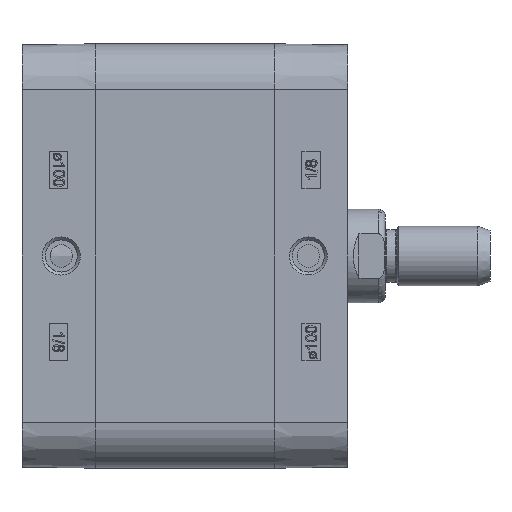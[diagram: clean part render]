
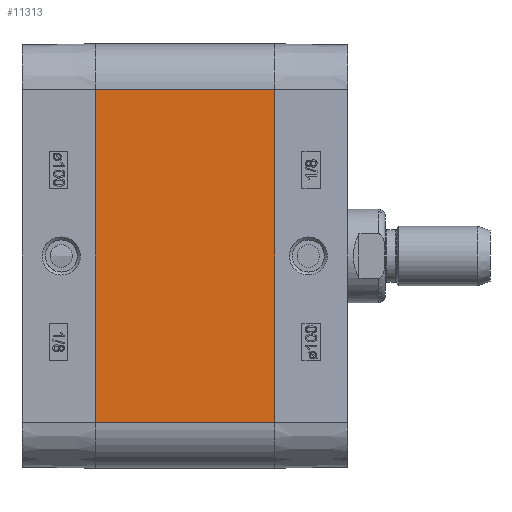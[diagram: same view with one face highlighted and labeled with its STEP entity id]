
A CAD part, left-side view. The second image highlights one B-rep face of the part: STEP entity #11313.
In plain terms, the highlighted planar face has unit normal (-1, 0, 0).
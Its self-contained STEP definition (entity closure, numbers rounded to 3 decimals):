
#5678=CARTESIAN_POINT('',(-56.65,-48.,44.4));
#5679=VERTEX_POINT('',#5678);
#5686=CARTESIAN_POINT('',(-56.65,-48.,-44.4));
#5687=VERTEX_POINT('',#5686);
#5688=CARTESIAN_POINT('',(-56.65,-48.,-44.4));
#5689=DIRECTION('',(0.0,0.0,1.0));
#5690=VECTOR('',#5689,88.8);
#5691=LINE('',#5688,#5690);
#5692=EDGE_CURVE('',#5687,#5679,#5691,.T.);
#11271=CARTESIAN_POINT('',(-56.65,0.0,-44.4));
#11272=VERTEX_POINT('',#11271);
#11273=CARTESIAN_POINT('',(-56.65,0.0,-44.4));
#11274=DIRECTION('',(0.0,-1.0,0.0));
#11275=VECTOR('',#11274,48.);
#11276=LINE('',#11273,#11275);
#11277=EDGE_CURVE('',#11272,#5687,#11276,.T.);
#11290=CARTESIAN_POINT('',(-56.65,0.0,-44.4));
#11291=DIRECTION('',(-1.0,0.0,0.0));
#11292=DIRECTION('',(0.0,0.0,1.0));
#11293=AXIS2_PLACEMENT_3D('',#11290,#11291,#11292);
#11294=PLANE('',#11293);
#11295=ORIENTED_EDGE('',*,*,#5692,.T.);
#11296=CARTESIAN_POINT('',(-56.65,0.0,44.4));
#11297=VERTEX_POINT('',#11296);
#11298=CARTESIAN_POINT('',(-56.65,0.0,44.4));
#11299=DIRECTION('',(0.0,-1.0,0.0));
#11300=VECTOR('',#11299,48.);
#11301=LINE('',#11298,#11300);
#11302=EDGE_CURVE('',#11297,#5679,#11301,.T.);
#11303=ORIENTED_EDGE('',*,*,#11302,.F.);
#11304=CARTESIAN_POINT('',(-56.65,0.0,-44.4));
#11305=DIRECTION('',(0.0,0.0,1.0));
#11306=VECTOR('',#11305,88.8);
#11307=LINE('',#11304,#11306);
#11308=EDGE_CURVE('',#11272,#11297,#11307,.T.);
#11309=ORIENTED_EDGE('',*,*,#11308,.F.);
#11310=ORIENTED_EDGE('',*,*,#11277,.T.);
#11311=EDGE_LOOP('',(#11295,#11303,#11309,#11310));
#11312=FACE_OUTER_BOUND('',#11311,.T.);
#11313=ADVANCED_FACE('',(#11312),#11294,.T.);
